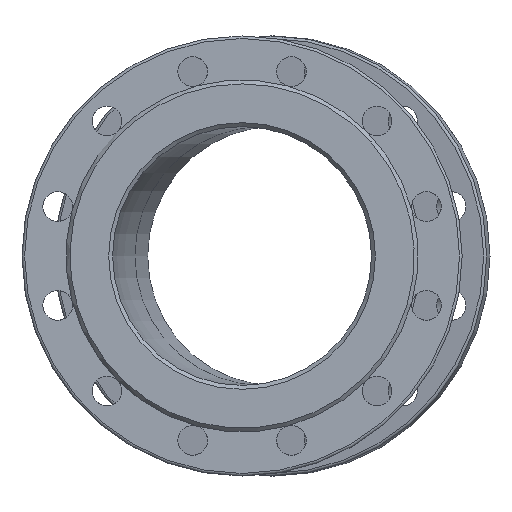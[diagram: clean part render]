
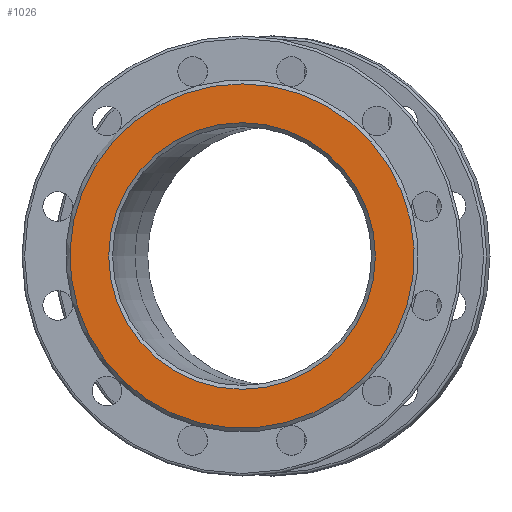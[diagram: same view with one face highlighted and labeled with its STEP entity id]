
A CAD part, left-side view. The second image highlights one B-rep face of the part: STEP entity #1026.
In plain terms, the highlighted planar face has unit normal (-1, 0, 0).
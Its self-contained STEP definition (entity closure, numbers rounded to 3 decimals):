
#193 = EDGE_LOOP ( 'NONE', ( #912 ) ) ;
#301 = EDGE_CURVE ( 'NONE', #1023, #1023, #976, .T. ) ;
#340 = CARTESIAN_POINT ( 'NONE',  ( 0., 0., -103. ) ) ;
#361 = EDGE_CURVE ( 'NONE', #2889, #2889, #1032, .T. ) ;
#432 = DIRECTION ( 'NONE',  ( 1., 0., 0. ) ) ;
#434 = PLANE ( 'NONE',  #545 ) ;
#545 = AXIS2_PLACEMENT_3D ( 'NONE', #1408, #1136, #1346 ) ;
#844 = DIRECTION ( 'NONE',  ( 0., 0., -1. ) ) ;
#912 = ORIENTED_EDGE ( 'NONE', *, *, #361, .T. ) ;
#976 = CIRCLE ( 'NONE', #1123, 103. ) ;
#1023 = VERTEX_POINT ( 'NONE', #340 ) ;
#1026 = ADVANCED_FACE ( 'NONE', ( #1163, #2793 ), #434, .F. ) ;
#1032 = CIRCLE ( 'NONE', #1519, 133. ) ;
#1123 = AXIS2_PLACEMENT_3D ( 'NONE', #1805, #432, #844 ) ;
#1136 = DIRECTION ( 'NONE',  ( 1., 0., 0. ) ) ;
#1163 = FACE_BOUND ( 'NONE', #2528, .T. ) ;
#1284 = ORIENTED_EDGE ( 'NONE', *, *, #301, .T. ) ;
#1346 = DIRECTION ( 'NONE',  ( 0., 0., -1. ) ) ;
#1408 = CARTESIAN_POINT ( 'NONE',  ( 0., 100., 0. ) ) ;
#1519 = AXIS2_PLACEMENT_3D ( 'NONE', #2711, #2350, #2772 ) ;
#1805 = CARTESIAN_POINT ( 'NONE',  ( 0., 0., 0. ) ) ;
#1959 = CARTESIAN_POINT ( 'NONE',  ( 0., 0., 133. ) ) ;
#2350 = DIRECTION ( 'NONE',  ( -1., 0., 0. ) ) ;
#2528 = EDGE_LOOP ( 'NONE', ( #1284 ) ) ;
#2711 = CARTESIAN_POINT ( 'NONE',  ( 0., 0., 0. ) ) ;
#2772 = DIRECTION ( 'NONE',  ( 0., 0., 1. ) ) ;
#2793 = FACE_OUTER_BOUND ( 'NONE', #193, .T. ) ;
#2889 = VERTEX_POINT ( 'NONE', #1959 ) ;
